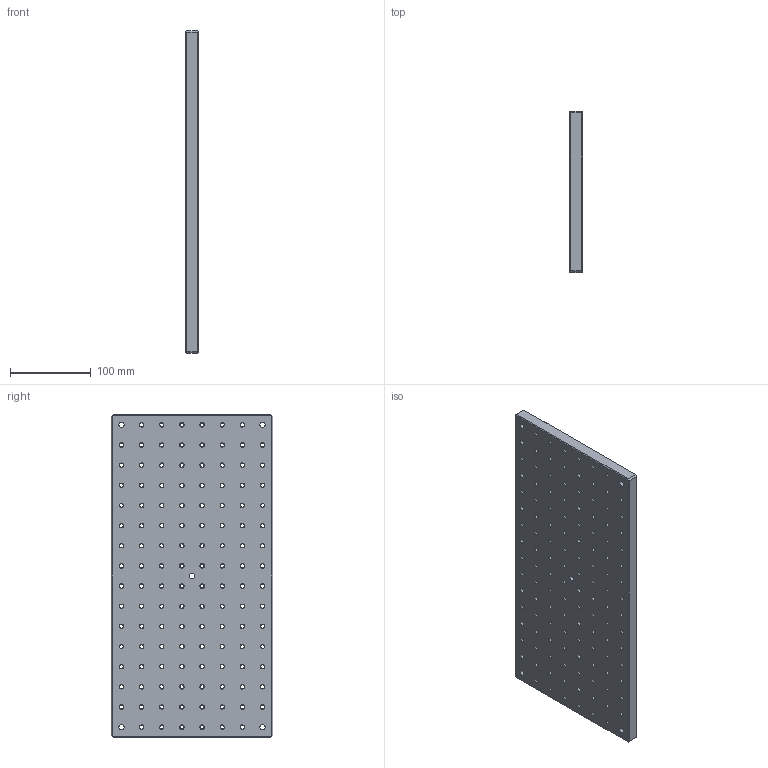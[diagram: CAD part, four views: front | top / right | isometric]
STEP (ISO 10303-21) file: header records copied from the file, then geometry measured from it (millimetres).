
FILE_DESCRIPTION(/* description */ (''),/* implementation_level */ '2;1');
FILE_NAME(/* name */ 'U:\KONSTRUKTORIAI\DOKUMENTACIJA\1\1B-ALE\1B-ALE-20-40-015\step\1B-ALE-20-40-015.stp',/* time_stamp */ '2016-06-15T08:02:52+03:00',/* author */ ('dsgn31'),/* organization */ (''),/* preprocessor_version */ 'ST-DEVELOPER v15.2',/* originating_system */ 'Autodesk Inventor 2014',/* authorisation */ '');
FILE_SCHEMA (('AUTOMOTIVE_DESIGN { 1 0 10303 214 3 1 1 }'));
Length unit declared in the file: millimetre
Products named in the file (1): 1B-ALE-20-40-015.01
Bounding box: 15 x 200 x 400 mm (x, y, z)
Volume: 1158232.6 mm3; surface area: 201662.2 mm2
Topology: 1 solids, 1 shells, 405 faces, 1062 edges, 664 vertices
Faces by surface type: cone 248, cylinder 134, plane 23
Full cylindrical faces by diameter (mm): 4.917 x124, 6.5 x5, 11 x5
Entity records: 10047 total; most frequent: DIRECTION 1884, CARTESIAN_POINT 1502, ORIENTED_EDGE 1112, EDGE_LOOP 1050, AXIS2_PLACEMENT_3D 922, FACE_BOUND 647, EDGE_CURVE 556, VERTEX_POINT 540
